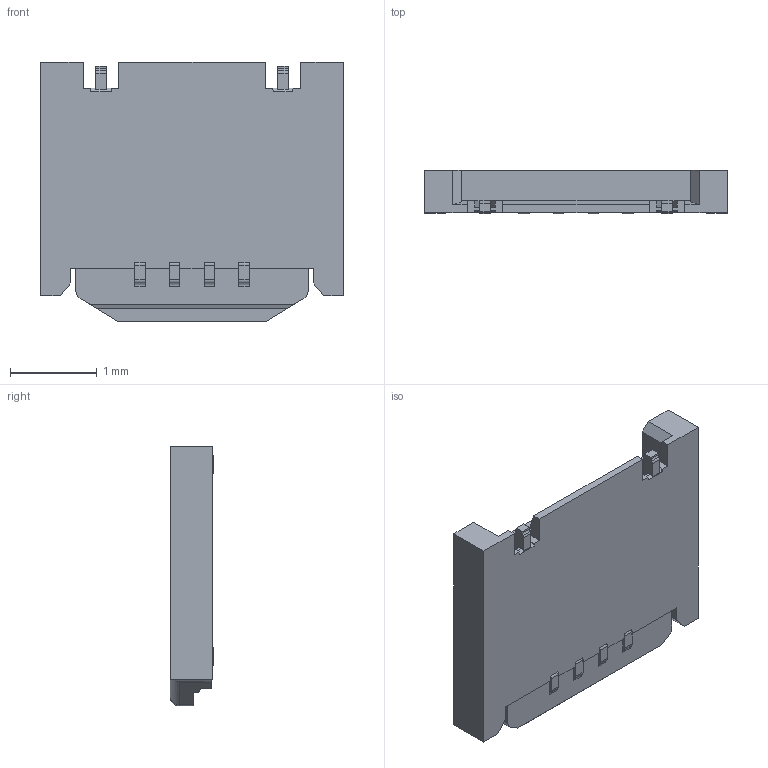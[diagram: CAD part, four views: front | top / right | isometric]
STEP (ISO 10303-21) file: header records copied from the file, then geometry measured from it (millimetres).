
FILE_DESCRIPTION (( 'STEP AP203' ), '1' );
FILE_NAME ('20588-004E-01 ACT CLOSE ASSY STEP R2 ALL.STEP', '2014-10-01T04:26:21', ( 'kaihatsu-3dcad-3' ), ( '' ), 'SwSTEP 2.0', 'SolidWorks 2011', '' );
FILE_SCHEMA (( 'CONFIG_CONTROL_DESIGN' ));
Length unit declared in the file: millimetre
Products named in the file (1): 20588-004E-01 ACT CLOSE ASSY STEP R2 ALL
Bounding box: 3.5 x 0.5 x 3 mm (x, y, z)
Volume: 4.4 mm3; surface area: 26.9 mm2
Topology: 1 solids, 1 shells, 120 faces, 350 edges, 230 vertices
Faces by surface type: plane 91, cylinder 27, sphere 2
Entity records: 3991 total; most frequent: CARTESIAN_POINT 711, ORIENTED_EDGE 696, DIRECTION 636, EDGE_CURVE 348, VECTOR 294, LINE 294, VERTEX_POINT 230, AXIS2_PLACEMENT_3D 171
